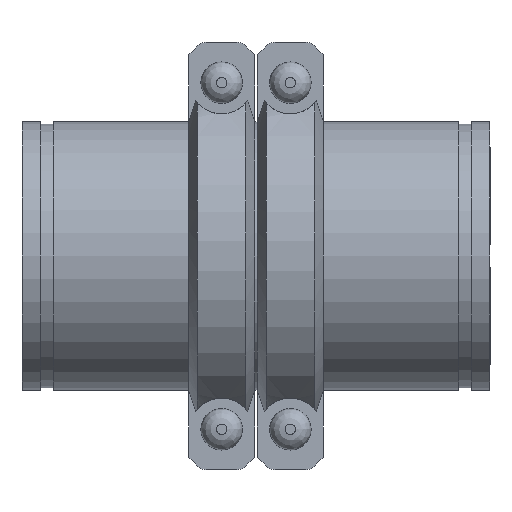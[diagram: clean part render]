
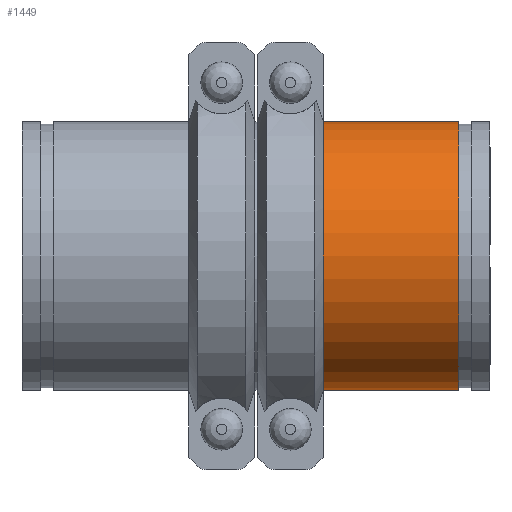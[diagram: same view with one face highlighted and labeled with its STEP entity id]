
A CAD part, front view. The second image highlights one B-rep face of the part: STEP entity #1449.
In plain terms, the highlighted cylindrical face has radius 136.525 mm (diameter 273.05 mm), a full revolution.
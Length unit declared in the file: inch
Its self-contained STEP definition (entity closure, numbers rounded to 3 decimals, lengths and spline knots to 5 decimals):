
#71=LINE('',#2289,#158);
#158=VECTOR('',#1852,5.375);
#245=CYLINDRICAL_SURFACE('',#1638,5.375);
#302=FACE_OUTER_BOUND('',#387,.T.);
#387=EDGE_LOOP('',(#948,#949,#950,#951,#952,#953));
#495=CIRCLE('',#1636,5.375);
#496=CIRCLE('',#1637,5.375);
#497=CIRCLE('',#1639,5.375);
#498=CIRCLE('',#1640,5.375);
#587=VERTEX_POINT('',#2280);
#588=VERTEX_POINT('',#2281);
#589=VERTEX_POINT('',#2285);
#590=VERTEX_POINT('',#2286);
#732=EDGE_CURVE('',#587,#588,#495,.T.);
#733=EDGE_CURVE('',#588,#587,#496,.T.);
#734=EDGE_CURVE('',#589,#590,#497,.T.);
#735=EDGE_CURVE('',#590,#589,#498,.T.);
#736=EDGE_CURVE('',#590,#588,#71,.T.);
#948=ORIENTED_EDGE('',*,*,#734,.F.);
#949=ORIENTED_EDGE('',*,*,#735,.F.);
#950=ORIENTED_EDGE('',*,*,#736,.T.);
#951=ORIENTED_EDGE('',*,*,#733,.T.);
#952=ORIENTED_EDGE('',*,*,#732,.T.);
#953=ORIENTED_EDGE('',*,*,#736,.F.);
#1449=ADVANCED_FACE('',(#302),#245,.T.);
#1636=AXIS2_PLACEMENT_3D('',#2282,#1842,#1843);
#1637=AXIS2_PLACEMENT_3D('',#2283,#1844,#1845);
#1638=AXIS2_PLACEMENT_3D('',#2284,#1846,#1847);
#1639=AXIS2_PLACEMENT_3D('',#2287,#1848,#1849);
#1640=AXIS2_PLACEMENT_3D('',#2288,#1850,#1851);
#1842=DIRECTION('center_axis',(-1.,0.,0.));
#1843=DIRECTION('ref_axis',(0.,0.,1.));
#1844=DIRECTION('center_axis',(-1.,0.,0.));
#1845=DIRECTION('ref_axis',(0.,0.,1.));
#1846=DIRECTION('center_axis',(-1.,0.,0.));
#1847=DIRECTION('ref_axis',(0.,1.,0.));
#1848=DIRECTION('center_axis',(-1.,0.,0.));
#1849=DIRECTION('ref_axis',(0.,0.,1.));
#1850=DIRECTION('center_axis',(-1.,0.,0.));
#1851=DIRECTION('ref_axis',(0.,0.,1.));
#1852=DIRECTION('',(1.,0.,0.));
#2280=CARTESIAN_POINT('',(2.75,5.375,0.));
#2281=CARTESIAN_POINT('',(2.75,-5.375,0.));
#2282=CARTESIAN_POINT('Origin',(2.75,0.,0.));
#2283=CARTESIAN_POINT('Origin',(2.75,0.,0.));
#2284=CARTESIAN_POINT('Origin',(0.,0.,
0.));
#2285=CARTESIAN_POINT('',(-2.75,5.375,0.));
#2286=CARTESIAN_POINT('',(-2.75,-5.375,0.));
#2287=CARTESIAN_POINT('Origin',(-2.75,0.,0.));
#2288=CARTESIAN_POINT('Origin',(-2.75,0.,0.));
#2289=CARTESIAN_POINT('',(0.,-5.375,0.));
